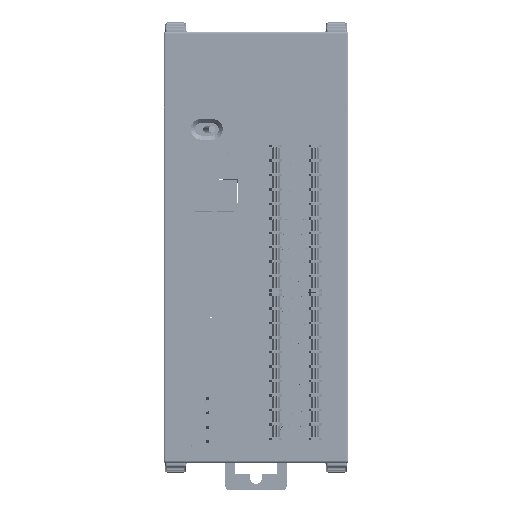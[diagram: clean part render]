
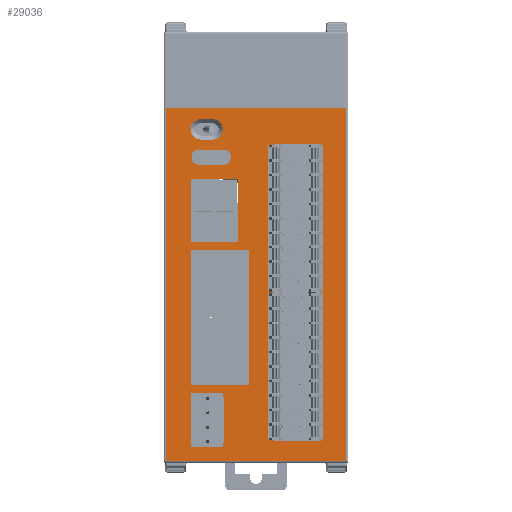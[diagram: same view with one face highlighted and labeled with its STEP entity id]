
A CAD part, top view. The second image highlights one B-rep face of the part: STEP entity #29036.
In plain terms, the highlighted planar face has unit normal (0, 0, 1).
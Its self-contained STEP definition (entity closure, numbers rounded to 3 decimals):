
#1=DIRECTION('',(1.,0.,0.));
#2=VECTOR('',#1,44.);
#3=CARTESIAN_POINT('',(-22.,34.,85.));
#4=LINE('',#3,#2);
#5=DIRECTION('',(0.,1.,0.));
#6=VECTOR('',#5,86.);
#7=CARTESIAN_POINT('',(22.,-52.,85.));
#8=LINE('',#7,#6);
#9=DIRECTION('',(1.,0.,0.));
#10=VECTOR('',#9,44.);
#11=CARTESIAN_POINT('',(-22.,-52.,85.));
#12=LINE('',#11,#10);
#13=DIRECTION('',(0.,-1.,0.));
#14=VECTOR('',#13,86.);
#15=CARTESIAN_POINT('',(-22.,34.,85.));
#16=LINE('',#15,#14);
#17=DIRECTION('',(-1.,0.,0.));
#18=VECTOR('',#17,7.7);
#19=CARTESIAN_POINT('',(-8.05,-35.48,85.));
#20=LINE('',#19,#18);
#21=DIRECTION('',(0.,-1.,0.));
#22=VECTOR('',#21,13.12);
#23=CARTESIAN_POINT('',(-15.75,-35.48,85.));
#24=LINE('',#23,#22);
#25=DIRECTION('',(1.,0.,0.));
#26=VECTOR('',#25,7.7);
#27=CARTESIAN_POINT('',(-15.75,-48.6,85.));
#28=LINE('',#27,#26);
#29=DIRECTION('',(0.,1.,0.));
#30=VECTOR('',#29,13.12);
#31=CARTESIAN_POINT('',(-8.05,-48.6,85.));
#32=LINE('',#31,#30);
#33=DIRECTION('',(0.,-1.,0.));
#34=VECTOR('',#33,72.4);
#35=CARTESIAN_POINT('',(4.45,25.15,85.));
#36=LINE('',#35,#34);
#37=DIRECTION('',(-1.,0.,0.));
#38=VECTOR('',#37,11.3);
#39=CARTESIAN_POINT('',(15.75,-47.25,85.));
#40=LINE('',#39,#38);
#41=DIRECTION('',(0.,1.,0.));
#42=VECTOR('',#41,72.4);
#43=CARTESIAN_POINT('',(15.75,-47.25,85.));
#44=LINE('',#43,#42);
#45=DIRECTION('',(1.,0.,0.));
#46=VECTOR('',#45,11.3);
#47=CARTESIAN_POINT('',(4.45,25.15,85.));
#48=LINE('',#47,#46);
#49=DIRECTION('',(0.,-1.,0.));
#50=VECTOR('',#49,15.3);
#51=CARTESIAN_POINT('',(-15.75,16.6,85.));
#52=LINE('',#51,#50);
#53=DIRECTION('',(1.,0.,0.));
#54=VECTOR('',#53,11.3);
#55=CARTESIAN_POINT('',(-15.75,1.3,85.));
#56=LINE('',#55,#54);
#57=DIRECTION('',(0.,1.,0.));
#58=VECTOR('',#57,15.3);
#59=CARTESIAN_POINT('',(-4.45,1.3,85.));
#60=LINE('',#59,#58);
#61=DIRECTION('',(-1.,0.,0.));
#62=VECTOR('',#61,11.3);
#63=CARTESIAN_POINT('',(-4.45,16.6,85.));
#64=LINE('',#63,#62);
#65=DIRECTION('',(-1.,0.,0.));
#66=VECTOR('',#65,6.36);
#67=CARTESIAN_POINT('',(-7.73,23.76,85.));
#68=LINE('',#67,#66);
#69=CARTESIAN_POINT('',(-14.09,22.21,85.));
#70=DIRECTION('',(0.,0.,1.));
#71=DIRECTION('',(0.,1.,0.));
#72=AXIS2_PLACEMENT_3D('',#69,#70,#71);
#74=DIRECTION('',(0.,-1.,0.));
#75=VECTOR('',#74,0.56);
#76=CARTESIAN_POINT('',(-15.64,22.21,85.));
#77=LINE('',#76,#75);
#78=CARTESIAN_POINT('',(-14.09,21.65,85.));
#79=DIRECTION('',(0.,0.,1.));
#80=DIRECTION('',(-1.,0.,0.));
#81=AXIS2_PLACEMENT_3D('',#78,#79,#80);
#83=DIRECTION('',(1.,0.,0.));
#84=VECTOR('',#83,6.36);
#85=CARTESIAN_POINT('',(-14.09,20.1,85.));
#86=LINE('',#85,#84);
#87=CARTESIAN_POINT('',(-7.73,21.65,85.));
#88=DIRECTION('',(0.,0.,1.));
#89=DIRECTION('',(0.,-1.,0.));
#90=AXIS2_PLACEMENT_3D('',#87,#88,#89);
#92=DIRECTION('',(0.,1.,0.));
#93=VECTOR('',#92,0.56);
#94=CARTESIAN_POINT('',(-6.18,21.65,85.));
#95=LINE('',#94,#93);
#96=CARTESIAN_POINT('',(-7.73,22.21,85.));
#97=DIRECTION('',(0.,0.,1.));
#98=DIRECTION('',(1.,0.,0.));
#99=AXIS2_PLACEMENT_3D('',#96,#97,#98);
#101=DIRECTION('',(-1.,0.,0.));
#102=VECTOR('',#101,14.);
#103=CARTESIAN_POINT('',(-1.75,-0.7,85.));
#104=LINE('',#103,#102);
#105=DIRECTION('',(1.,0.,0.));
#106=VECTOR('',#105,14.);
#107=CARTESIAN_POINT('',(-15.75,-33.48,85.));
#108=LINE('',#107,#106);
#125=CARTESIAN_POINT('',(-13.4,28.7,85.));
#126=DIRECTION('',(0.,0.,-1.));
#127=DIRECTION('',(0.,-1.,0.));
#128=AXIS2_PLACEMENT_3D('',#125,#126,#127);
#130=DIRECTION('',(-1.,0.,0.));
#131=VECTOR('',#130,2.8);
#132=CARTESIAN_POINT('',(-10.6,26.2,85.));
#133=LINE('',#132,#131);
#134=CARTESIAN_POINT('',(-10.6,28.7,85.));
#135=DIRECTION('',(0.,0.,-1.));
#136=DIRECTION('',(0.,1.,0.));
#137=AXIS2_PLACEMENT_3D('',#134,#135,#136);
#139=DIRECTION('',(1.,0.,0.));
#140=VECTOR('',#139,2.8);
#141=CARTESIAN_POINT('',(-13.4,31.2,85.));
#142=LINE('',#141,#140);
#13762=DIRECTION('',(0.,-1.,0.));
#13763=VECTOR('',#13762,32.78);
#13764=CARTESIAN_POINT('',(-1.75,-0.7,85.));
#13765=LINE('',#13764,#13763);
#13786=DIRECTION('',(0.,1.,0.));
#13787=VECTOR('',#13786,32.78);
#13788=CARTESIAN_POINT('',(-15.75,-33.48,85.));
#13789=LINE('',#13788,#13787);
#22365=CARTESIAN_POINT('',(-22.,-52.,85.));
#22366=CARTESIAN_POINT('',(22.,-52.,85.));
#22367=VERTEX_POINT('',#22365);
#22368=VERTEX_POINT('',#22366);
#22383=CARTESIAN_POINT('',(-22.,34.,85.));
#22384=CARTESIAN_POINT('',(22.,34.,85.));
#22385=VERTEX_POINT('',#22383);
#22386=VERTEX_POINT('',#22384);
#22403=CARTESIAN_POINT('',(-8.05,-35.48,85.));
#22404=CARTESIAN_POINT('',(-15.75,-35.48,85.));
#22405=VERTEX_POINT('',#22403);
#22406=VERTEX_POINT('',#22404);
#22407=CARTESIAN_POINT('',(-15.75,-48.6,85.));
#22408=VERTEX_POINT('',#22407);
#22409=CARTESIAN_POINT('',(-8.05,-48.6,85.));
#22410=VERTEX_POINT('',#22409);
#22411=CARTESIAN_POINT('',(-1.75,-0.7,85.));
#22412=CARTESIAN_POINT('',(-15.75,-0.7,85.));
#22413=VERTEX_POINT('',#22411);
#22414=VERTEX_POINT('',#22412);
#28701=CARTESIAN_POINT('',(15.75,-47.25,85.));
#28702=CARTESIAN_POINT('',(15.75,25.15,85.));
#28703=VERTEX_POINT('',#28701);
#28704=VERTEX_POINT('',#28702);
#28705=CARTESIAN_POINT('',(4.45,25.15,85.));
#28706=CARTESIAN_POINT('',(4.45,-47.25,85.));
#28707=VERTEX_POINT('',#28705);
#28708=VERTEX_POINT('',#28706);
#28709=CARTESIAN_POINT('',(-15.75,16.6,85.));
#28710=CARTESIAN_POINT('',(-15.75,1.3,85.));
#28711=VERTEX_POINT('',#28709);
#28712=VERTEX_POINT('',#28710);
#28713=CARTESIAN_POINT('',(-4.45,1.3,85.));
#28714=VERTEX_POINT('',#28713);
#28715=CARTESIAN_POINT('',(-4.45,16.6,85.));
#28716=VERTEX_POINT('',#28715);
#28717=CARTESIAN_POINT('',(-7.73,23.76,85.));
#28718=CARTESIAN_POINT('',(-14.09,23.76,85.));
#28719=VERTEX_POINT('',#28717);
#28720=VERTEX_POINT('',#28718);
#28721=CARTESIAN_POINT('',(-15.64,22.21,85.));
#28722=VERTEX_POINT('',#28721);
#28723=CARTESIAN_POINT('',(-15.64,21.65,85.));
#28724=VERTEX_POINT('',#28723);
#28725=CARTESIAN_POINT('',(-14.09,20.1,85.));
#28726=VERTEX_POINT('',#28725);
#28727=CARTESIAN_POINT('',(-7.73,20.1,85.));
#28728=VERTEX_POINT('',#28727);
#28729=CARTESIAN_POINT('',(-6.18,21.65,85.));
#28730=VERTEX_POINT('',#28729);
#28731=CARTESIAN_POINT('',(-6.18,22.21,85.));
#28732=VERTEX_POINT('',#28731);
#28917=CARTESIAN_POINT('',(-15.75,-33.48,85.));
#28918=CARTESIAN_POINT('',(-1.75,-33.48,85.));
#28919=VERTEX_POINT('',#28917);
#28920=VERTEX_POINT('',#28918);
#28937=CARTESIAN_POINT('',(-13.4,26.2,85.));
#28938=CARTESIAN_POINT('',(-13.4,31.2,85.));
#28939=VERTEX_POINT('',#28937);
#28940=VERTEX_POINT('',#28938);
#28945=CARTESIAN_POINT('',(-10.6,31.2,
85.));
#28946=VERTEX_POINT('',#28945);
#28949=CARTESIAN_POINT('',(-10.6,26.2,85.));
#28950=VERTEX_POINT('',#28949);
#28953=CARTESIAN_POINT('',(0.,0.,85.));
#28954=DIRECTION('',(0.,0.,1.));
#28955=DIRECTION('',(1.,0.,0.));
#28956=AXIS2_PLACEMENT_3D('',#28953,#28954,#28955);
#28957=PLANE('',#28956);
#28959=ORIENTED_EDGE('',*,*,#28958,.T.);
#28961=ORIENTED_EDGE('',*,*,#28960,.F.);
#28963=ORIENTED_EDGE('',*,*,#28962,.F.);
#28965=ORIENTED_EDGE('',*,*,#28964,.F.);
#28966=EDGE_LOOP('',(#28959,#28961,#28963,#28965));
#28967=FACE_OUTER_BOUND('',#28966,.F.);
#28969=ORIENTED_EDGE('',*,*,#28968,.T.);
#28971=ORIENTED_EDGE('',*,*,#28970,.T.);
#28973=ORIENTED_EDGE('',*,*,#28972,.T.);
#28975=ORIENTED_EDGE('',*,*,#28974,.T.);
#28976=EDGE_LOOP('',(#28969,#28971,#28973,#28975));
#28977=FACE_BOUND('',#28976,.F.);
#28979=ORIENTED_EDGE('',*,*,#28978,.T.);
#28981=ORIENTED_EDGE('',*,*,#28980,.F.);
#28983=ORIENTED_EDGE('',*,*,#28982,.T.);
#28985=ORIENTED_EDGE('',*,*,#28984,.F.);
#28986=EDGE_LOOP('',(#28979,#28981,#28983,#28985));
#28987=FACE_BOUND('',#28986,.F.);
#28989=ORIENTED_EDGE('',*,*,#28988,.T.);
#28991=ORIENTED_EDGE('',*,*,#28990,.T.);
#28993=ORIENTED_EDGE('',*,*,#28992,.T.);
#28995=ORIENTED_EDGE('',*,*,#28994,.T.);
#28996=EDGE_LOOP('',(#28989,#28991,#28993,#28995));
#28997=FACE_BOUND('',#28996,.F.);
#28999=ORIENTED_EDGE('',*,*,#28998,.T.);
#29001=ORIENTED_EDGE('',*,*,#29000,.T.);
#29003=ORIENTED_EDGE('',*,*,#29002,.T.);
#29005=ORIENTED_EDGE('',*,*,#29004,.T.);
#29007=ORIENTED_EDGE('',*,*,#29006,.T.);
#29009=ORIENTED_EDGE('',*,*,#29008,.T.);
#29011=ORIENTED_EDGE('',*,*,#29010,.T.);
#29013=ORIENTED_EDGE('',*,*,#29012,.T.);
#29014=EDGE_LOOP('',(#28999,#29001,#29003,#29005,#29007,#29009,#29011,#29013));
#29015=FACE_BOUND('',#29014,.F.);
#29017=ORIENTED_EDGE('',*,*,#29016,.F.);
#29019=ORIENTED_EDGE('',*,*,#29018,.T.);
#29021=ORIENTED_EDGE('',*,*,#29020,.F.);
#29023=ORIENTED_EDGE('',*,*,#29022,.T.);
#29024=EDGE_LOOP('',(#29017,#29019,#29021,#29023));
#29025=FACE_BOUND('',#29024,.F.);
#29027=ORIENTED_EDGE('',*,*,#29026,.F.);
#29029=ORIENTED_EDGE('',*,*,#29028,.F.);
#29031=ORIENTED_EDGE('',*,*,#29030,.F.);
#29033=ORIENTED_EDGE('',*,*,#29032,.F.);
#29034=EDGE_LOOP('',(#29027,#29029,#29031,#29033));
#29035=FACE_BOUND('',#29034,.F.);
#29036=ADVANCED_FACE('',(#28967,#28977,#28987,#28997,#29015,#29025,#29035),
#28957,.T.);
#73=CIRCLE('',#72,1.55);
#82=CIRCLE('',#81,1.55);
#91=CIRCLE('',#90,1.55);
#100=CIRCLE('',#99,1.55);
#129=CIRCLE('',#128,2.5);
#138=CIRCLE('',#137,2.5);
#28958=EDGE_CURVE('',#22385,#22386,#4,.T.);
#28960=EDGE_CURVE('',#22368,#22386,#8,.T.);
#28962=EDGE_CURVE('',#22367,#22368,#12,.T.);
#28964=EDGE_CURVE('',#22385,#22367,#16,.T.);
#28968=EDGE_CURVE('',#22405,#22406,#20,.T.);
#28970=EDGE_CURVE('',#22406,#22408,#24,.T.);
#28972=EDGE_CURVE('',#22408,#22410,#28,.T.);
#28974=EDGE_CURVE('',#22410,#22405,#32,.T.);
#28978=EDGE_CURVE('',#28707,#28708,#36,.T.);
#28980=EDGE_CURVE('',#28703,#28708,#40,.T.);
#28982=EDGE_CURVE('',#28703,#28704,#44,.T.);
#28984=EDGE_CURVE('',#28707,#28704,#48,.T.);
#28988=EDGE_CURVE('',#28711,#28712,#52,.T.);
#28990=EDGE_CURVE('',#28712,#28714,#56,.T.);
#28992=EDGE_CURVE('',#28714,#28716,#60,.T.);
#28994=EDGE_CURVE('',#28716,#28711,#64,.T.);
#28998=EDGE_CURVE('',#28719,#28720,#68,.T.);
#29000=EDGE_CURVE('',#28720,#28722,#73,.T.);
#29002=EDGE_CURVE('',#28722,#28724,#77,.T.);
#29004=EDGE_CURVE('',#28724,#28726,#82,.T.);
#29006=EDGE_CURVE('',#28726,#28728,#86,.T.);
#29008=EDGE_CURVE('',#28728,#28730,#91,.T.);
#29010=EDGE_CURVE('',#28730,#28732,#95,.T.);
#29012=EDGE_CURVE('',#28732,#28719,#100,.T.);
#29016=EDGE_CURVE('',#22413,#28920,#13765,.T.);
#29018=EDGE_CURVE('',#22413,#22414,#104,.T.);
#29020=EDGE_CURVE('',#28919,#22414,#13789,.T.);
#29022=EDGE_CURVE('',#28919,#28920,#108,.T.);
#29026=EDGE_CURVE('',#28939,#28940,#129,.T.);
#29028=EDGE_CURVE('',#28950,#28939,#133,.T.);
#29030=EDGE_CURVE('',#28946,#28950,#138,.T.);
#29032=EDGE_CURVE('',#28940,#28946,#142,.T.);
